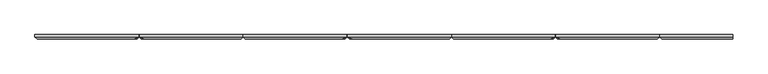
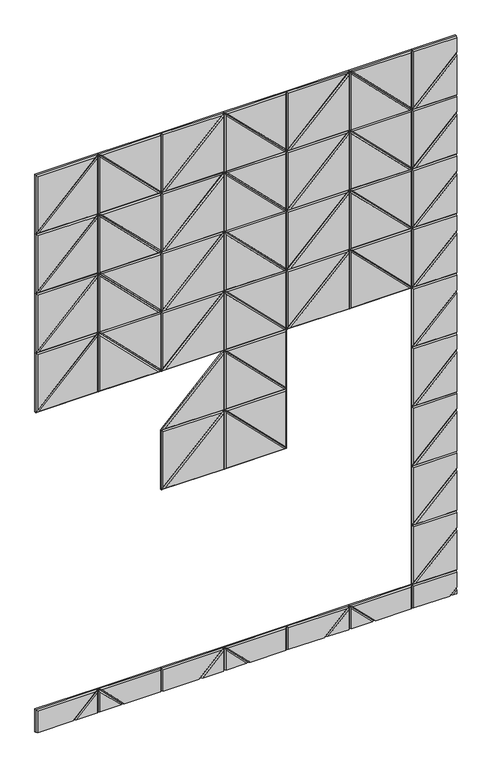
"""IFC4 building model written with IfcOpenShell, lengths in millimetres: proxy geometry, Wall_Akebia 7.3dm."""

from ifc_helpers import new_model, si_unit, origin, place, context, project, spatial, faceted_brep, source, transform, mapped, element, save


def generic_models_00a8797d(model_context):
    return source(origin(), model_context, "Body", "Brep", [
        faceted_brep([(10927.1489855, 12.0, 0.0), (10951.9489855, 12.0, 24.8), (10951.9489855, 12.0, 0.0), (10927.1489855, 6.0, 0.0), (10951.9489855, 6.0, 24.8), (10935.6342669, 0.0, 0.0), (10951.9489855, 0.0, 0.0), (10951.9489855, 0.0, 16.3147186)], [[[0, 1, 2]], [[0, 3, 4, 1]], [[5, 6, 7]], [[3, 5, 7, 4]], [[2, 1, 4, 7, 6]], [[0, 2, 6, 5, 3]]]),
        faceted_brep([(10927.1489855, 12.0, 0.0), (10742.6489855, 12.0, 0.0), (10742.6489855, 12.0, 113.95), (10951.9489855, 12.0, 113.95), (10951.9489855, 12.0, 24.8), (10742.6489855, 6.0, 113.95), (10951.9489855, 6.0, 113.95), (10951.9489855, 6.0, 24.8), (10927.1489855, 6.0, 0.0), (10742.6489855, 6.0, 0.0), (10918.6637042, 0.0, 0.0), (10951.9489855, 0.0, 33.2852814), (10951.9489855, 0.0, 107.95), (10748.6489855, 0.0, 107.95), (10748.6489855, 0.0, 0.0)], [[[0, 1, 2, 3, 4]], [[3, 2, 5, 6]], [[0, 4, 7, 8]], [[9, 5, 2, 1]], [[10, 11, 12, 13, 14]], [[6, 5, 13, 12]], [[8, 7, 11, 10]], [[14, 13, 5, 9]], [[3, 6, 12, 11, 7, 4]], [[0, 8, 10, 14, 9, 1]]]),
        faceted_brep([(9961.2489855, 12.0, 0.0), (9847.2989855, 12.0, 0.0), (9847.2989855, 12.0, 113.95), (9847.2989855, 6.0, 0.0), (9847.2989855, 6.0, 113.95), (9961.2489855, 6.0, 0.0), (9952.7637042, 0.0, 0.0), (9853.2989855, 0.0, 99.4647186), (9853.2989855, 0.0, 0.0)], [[[0, 1, 2]], [[3, 4, 2, 1]], [[0, 2, 4, 5]], [[6, 7, 8]], [[8, 7, 4, 3]], [[5, 4, 7, 6]], [[0, 5, 6, 8, 3, 1]]]),
        faceted_brep([(9961.2489855, 12.0, 0.0), (9847.2989855, 12.0, 113.95), (10145.7489855, 12.0, 113.95), (10145.7489855, 12.0, 0.0), (10145.7489855, 6.0, 113.95), (9847.2989855, 6.0, 113.95), (9961.2489855, 6.0, 0.0), (10145.7489855, 6.0, 0.0), (9969.7342669, 0.0, 0.0), (10139.7489855, 0.0, 0.0), (10139.7489855, 0.0, 107.95), (9861.7842669, 0.0, 107.95)], [[[0, 1, 2, 3]], [[4, 2, 1, 5]], [[0, 6, 5, 1]], [[7, 3, 2, 4]], [[8, 9, 10, 11]], [[4, 5, 11, 10]], [[6, 8, 11, 5]], [[9, 7, 4, 10]], [[0, 3, 7, 9, 8, 6]]]),
        faceted_brep([(9733.3489855, 12.0, 0.0), (9847.2989855, 12.0, 113.95), (9847.2989855, 12.0, 0.0), (9847.2989855, 6.0, 0.0), (9847.2989855, 6.0, 113.95), (9733.3489855, 6.0, 0.0), (9741.8342669, 0.0, 0.0), (9841.2989855, 0.0, 0.0), (9841.2989855, 0.0, 99.4647186)], [[[0, 1, 2]], [[3, 2, 1, 4]], [[0, 5, 4, 1]], [[6, 7, 8]], [[7, 3, 4, 8]], [[5, 6, 8, 4]], [[0, 2, 3, 7, 6, 5]]]),
        faceted_brep([(9733.3489855, 12.0, 0.0), (9548.8489855, 12.0, 0.0), (9548.8489855, 12.0, 113.95), (9847.2989855, 12.0, 113.95), (9548.8489855, 6.0, 113.95), (9847.2989855, 6.0, 113.95), (9733.3489855, 6.0, 0.0), (9548.8489855, 6.0, 0.0), (9724.8637042, 0.0, 0.0), (9832.8137042, 0.0, 107.95), (9554.8489855, 0.0, 107.95), (9554.8489855, 0.0, 0.0)], [[[0, 1, 2, 3]], [[4, 5, 3, 2]], [[0, 3, 5, 6]], [[7, 4, 2, 1]], [[8, 9, 10, 11]], [[4, 10, 9, 5]], [[6, 5, 9, 8]], [[11, 10, 4, 7]], [[0, 6, 8, 11, 7, 1]]]),
        faceted_brep([(9364.3489855, 12.0, 0.0), (9250.3989855, 12.0, 0.0), (9250.3989855, 12.0, 113.95), (9250.3989855, 6.0, 0.0), (9250.3989855, 6.0, 113.95), (9364.3489855, 6.0, 0.0), (9355.8637042, 0.0, 0.0), (9256.3989855, 0.0, 99.4647186), (9256.3989855, 0.0, 0.0)], [[[0, 1, 2]], [[3, 4, 2, 1]], [[0, 2, 4, 5]], [[6, 7, 8]], [[8, 7, 4, 3]], [[5, 4, 7, 6]], [[0, 5, 6, 8, 3, 1]]]),
        faceted_brep([(9364.3489855, 12.0, 0.0), (9250.3989855, 12.0, 113.95), (9548.8489855, 12.0, 113.95), (9548.8489855, 12.0, 0.0), (9548.8489855, 6.0, 113.95), (9250.3989855, 6.0, 113.95), (9364.3489855, 6.0, 0.0), (9548.8489855, 6.0, 0.0), (9372.8342669, 0.0, 0.0), (9542.8489855, 0.0, 0.0), (9542.8489855, 0.0, 107.95), (9264.8842669, 0.0, 107.95)], [[[0, 1, 2, 3]], [[4, 2, 1, 5]], [[0, 6, 5, 1]], [[7, 3, 2, 4]], [[8, 9, 10, 11]], [[4, 5, 11, 10]], [[6, 8, 11, 5]], [[9, 7, 4, 10]], [[0, 3, 7, 9, 8, 6]]]),
        faceted_brep([(9136.4489855, 12.0, 0.0), (9250.3989855, 12.0, 113.95), (9250.3989855, 12.0, 0.0), (9250.3989855, 6.0, 0.0), (9250.3989855, 6.0, 113.95), (9136.4489855, 6.0, 0.0), (9144.9342669, 0.0, 0.0), (9244.3989855, 0.0, 0.0), (9244.3989855, 0.0, 99.4647186)], [[[0, 1, 2]], [[3, 2, 1, 4]], [[0, 5, 4, 1]], [[6, 7, 8]], [[7, 3, 4, 8]], [[5, 6, 8, 4]], [[0, 2, 3, 7, 6, 5]]]),
        faceted_brep([(9136.4489855, 12.0, 0.0), (8951.9489855, 12.0, 0.0), (8951.9489855, 12.0, 113.95), (9250.3989855, 12.0, 113.95), (8951.9489855, 6.0, 113.95), (9250.3989855, 6.0, 113.95), (9136.4489855, 6.0, 0.0), (8951.9489855, 6.0, 0.0), (9127.9637042, 0.0, 0.0), (9235.9137042, 0.0, 107.95), (8957.9489855, 0.0, 107.95), (8957.9489855, 0.0, 0.0)], [[[0, 1, 2, 3]], [[4, 5, 3, 2]], [[0, 3, 5, 6]], [[7, 4, 2, 1]], [[8, 9, 10, 11]], [[4, 10, 9, 5]], [[6, 5, 9, 8]], [[11, 10, 4, 7]], [[0, 6, 8, 11, 7, 1]]]),
        faceted_brep([(10558.1489855, 12.0, 0.0), (10444.1989855, 12.0, 0.0), (10444.1989855, 12.0, 113.95), (10444.1989855, 6.0, 0.0), (10444.1989855, 6.0, 113.95), (10558.1489855, 6.0, 0.0), (10549.6637042, 0.0, 0.0), (10450.1989855, 0.0, 99.4647186), (10450.1989855, 0.0, 0.0)], [[[0, 1, 2]], [[3, 4, 2, 1]], [[0, 2, 4, 5]], [[6, 7, 8]], [[8, 7, 4, 3]], [[5, 4, 7, 6]], [[0, 5, 6, 8, 3, 1]]]),
        faceted_brep([(10558.1489855, 12.0, 0.0), (10444.1989855, 12.0, 113.95), (10742.6489855, 12.0, 113.95), (10742.6489855, 12.0, 0.0), (10742.6489855, 6.0, 113.95), (10444.1989855, 6.0, 113.95), (10558.1489855, 6.0, 0.0), (10742.6489855, 6.0, 0.0), (10566.6342669, 0.0, 0.0), (10736.6489855, 0.0, 0.0), (10736.6489855, 0.0, 107.95), (10458.6842669, 0.0, 107.95)], [[[0, 1, 2, 3]], [[4, 2, 1, 5]], [[0, 6, 5, 1]], [[7, 3, 2, 4]], [[8, 9, 10, 11]], [[4, 5, 11, 10]], [[6, 8, 11, 5]], [[9, 7, 4, 10]], [[0, 3, 7, 9, 8, 6]]]),
        faceted_brep([(10330.2489855, 12.0, 0.0), (10444.1989855, 12.0, 113.95), (10444.1989855, 12.0, 0.0), (10444.1989855, 6.0, 0.0), (10444.1989855, 6.0, 113.95), (10330.2489855, 6.0, 0.0), (10338.7342669, 0.0, 0.0), (10438.1989855, 0.0, 0.0), (10438.1989855, 0.0, 99.4647186)], [[[0, 1, 2]], [[3, 2, 1, 4]], [[0, 5, 4, 1]], [[6, 7, 8]], [[7, 3, 4, 8]], [[5, 6, 8, 4]], [[0, 2, 3, 7, 6, 5]]]),
        faceted_brep([(10330.2489855, 12.0, 0.0), (10145.7489855, 12.0, 0.0), (10145.7489855, 12.0, 113.95), (10444.1989855, 12.0, 113.95), (10145.7489855, 6.0, 113.95), (10444.1989855, 6.0, 113.95), (10330.2489855, 6.0, 0.0), (10145.7489855, 6.0, 0.0), (10321.7637042, 0.0, 0.0), (10429.7137042, 0.0, 107.95), (10151.7489855, 0.0, 107.95), (10151.7489855, 0.0, 0.0)], [[[0, 1, 2, 3]], [[4, 5, 3, 2]], [[0, 3, 5, 6]], [[7, 4, 2, 1]], [[8, 9, 10, 11]], [[4, 10, 9, 5]], [[6, 5, 9, 8]], [[11, 10, 4, 7]], [[0, 6, 8, 11, 7, 1]]]),
        faceted_brep([(10951.9489855, 12.0, 2203.1), (10742.6489855, 12.0, 2203.1), (10951.9489855, 12.0, 2412.4), (10951.9489855, 6.0, 2412.4), (10742.6489855, 6.0, 2203.1), (10951.9489855, 6.0, 2203.1), (10951.9489855, 0.0, 2209.1), (10951.9489855, 0.0, 2403.9147186), (10757.1342669, 0.0, 2209.1)], [[[0, 1, 2]], [[3, 2, 1, 4]], [[0, 5, 4, 1]], [[6, 7, 8]], [[7, 3, 4, 8]], [[5, 6, 8, 4]], [[0, 2, 3, 7, 6, 5]]]),
        faceted_brep([(10951.9489855, 12.0, 2501.55), (10951.9489855, 12.0, 2412.4), (10742.6489855, 12.0, 2203.1), (10742.6489855, 12.0, 2501.55), (10742.6489855, 6.0, 2501.55), (10951.9489855, 6.0, 2501.55), (10951.9489855, 6.0, 2412.4), (10742.6489855, 6.0, 2203.1), (10951.9489855, 0.0, 2495.55), (10748.6489855, 0.0, 2495.55), (10748.6489855, 0.0, 2217.5852814), (10951.9489855, 0.0, 2420.8852814)], [[[0, 1, 2, 3]], [[0, 3, 4, 5]], [[6, 7, 2, 1]], [[7, 4, 3, 2]], [[8, 9, 10, 11]], [[5, 4, 9, 8]], [[11, 10, 7, 6]], [[7, 10, 9, 4]], [[0, 5, 8, 11, 6, 1]]]),
        faceted_brep([(10951.9489855, 12.0, 2501.55), (10742.6489855, 12.0, 2501.55), (10951.9489855, 12.0, 2710.85), (10951.9489855, 6.0, 2710.85), (10742.6489855, 6.0, 2501.55), (10951.9489855, 6.0, 2501.55), (10951.9489855, 0.0, 2507.55), (10951.9489855, 0.0, 2702.3647186), (10757.1342669, 0.0, 2507.55)], [[[0, 1, 2]], [[3, 2, 1, 4]], [[0, 5, 4, 1]], [[6, 7, 8]], [[7, 3, 4, 8]], [[5, 6, 8, 4]], [[0, 2, 3, 7, 6, 5]]]),
        faceted_brep([(10951.9489855, 12.0, 2800.0), (10951.9489855, 12.0, 2710.85), (10742.6489855, 12.0, 2501.55), (10742.6489855, 12.0, 2800.0), (10742.6489855, 6.0, 2800.0), (10951.9489855, 6.0, 2800.0), (10951.9489855, 6.0, 2710.85), (10742.6489855, 6.0, 2501.55), (10951.9489855, 0.0, 2794.0), (10748.6489855, 0.0, 2794.0), (10748.6489855, 0.0, 2516.0352814), (10951.9489855, 0.0, 2719.3352814)], [[[0, 1, 2, 3]], [[0, 3, 4, 5]], [[6, 7, 2, 1]], [[7, 4, 3, 2]], [[8, 9, 10, 11]], [[5, 4, 9, 8]], [[11, 10, 7, 6]], [[7, 10, 9, 4]], [[0, 5, 8, 11, 6, 1]]]),
        faceted_brep([(10951.9489855, 12.0, 1606.2), (10742.6489855, 12.0, 1606.2), (10951.9489855, 12.0, 1815.5), (10951.9489855, 6.0, 1815.5), (10742.6489855, 6.0, 1606.2), (10951.9489855, 6.0, 1606.2), (10951.9489855, 0.0, 1612.2), (10951.9489855, 0.0, 1807.0147186), (10757.1342669, 0.0, 1612.2)], [[[0, 1, 2]], [[3, 2, 1, 4]], [[0, 5, 4, 1]], [[6, 7, 8]], [[7, 3, 4, 8]], [[5, 6, 8, 4]], [[0, 2, 3, 7, 6, 5]]]),
        faceted_brep([(10951.9489855, 12.0, 1904.65), (10951.9489855, 12.0, 1815.5), (10742.6489855, 12.0, 1606.2), (10742.6489855, 12.0, 1904.65), (10742.6489855, 6.0, 1904.65), (10951.9489855, 6.0, 1904.65), (10951.9489855, 6.0, 1815.5), (10742.6489855, 6.0, 1606.2), (10951.9489855, 0.0, 1898.65), (10748.6489855, 0.0, 1898.65), (10748.6489855, 0.0, 1620.6852814), (10951.9489855, 0.0, 1823.9852814)], [[[0, 1, 2, 3]], [[0, 3, 4, 5]], [[6, 7, 2, 1]], [[7, 4, 3, 2]], [[8, 9, 10, 11]], [[5, 4, 9, 8]], [[11, 10, 7, 6]], [[7, 10, 9, 4]], [[0, 5, 8, 11, 6, 1]]]),
        faceted_brep([(10951.9489855, 12.0, 1904.65), (10742.6489855, 12.0, 1904.65), (10951.9489855, 12.0, 2113.95), (10951.9489855, 6.0, 2113.95), (10742.6489855, 6.0, 1904.65), (10951.9489855, 6.0, 1904.65), (10951.9489855, 0.0, 1910.65), (10951.9489855, 0.0, 2105.4647186), (10757.1342669, 0.0, 1910.65)], [[[0, 1, 2]], [[3, 2, 1, 4]], [[0, 5, 4, 1]], [[6, 7, 8]], [[7, 3, 4, 8]], [[5, 6, 8, 4]], [[0, 2, 3, 7, 6, 5]]]),
        faceted_brep([(10951.9489855, 12.0, 2203.1), (10951.9489855, 12.0, 2113.95), (10742.6489855, 12.0, 1904.65), (10742.6489855, 12.0, 2203.1), (10742.6489855, 6.0, 2203.1), (10951.9489855, 6.0, 2203.1), (10951.9489855, 6.0, 2113.95), (10742.6489855, 6.0, 1904.65), (10951.9489855, 0.0, 2197.1), (10748.6489855, 0.0, 2197.1), (10748.6489855, 0.0, 1919.1352814), (10951.9489855, 0.0, 2122.4352814)], [[[0, 1, 2, 3]], [[0, 3, 4, 5]], [[6, 7, 2, 1]], [[7, 4, 3, 2]], [[8, 9, 10, 11]], [[5, 4, 9, 8]], [[11, 10, 7, 6]], [[7, 10, 9, 4]], [[0, 5, 8, 11, 6, 1]]]),
        faceted_brep([(10951.9489855, 12.0, 1009.3), (10742.6489855, 12.0, 1009.3), (10951.9489855, 12.0, 1218.6), (10951.9489855, 6.0, 1218.6), (10742.6489855, 6.0, 1009.3), (10951.9489855, 6.0, 1009.3), (10951.9489855, 0.0, 1015.3), (10951.9489855, 0.0, 1210.1147186), (10757.1342669, 0.0, 1015.3)], [[[0, 1, 2]], [[3, 2, 1, 4]], [[0, 5, 4, 1]], [[6, 7, 8]], [[7, 3, 4, 8]], [[5, 6, 8, 4]], [[0, 2, 3, 7, 6, 5]]]),
        faceted_brep([(10951.9489855, 12.0, 1307.75), (10951.9489855, 12.0, 1218.6), (10742.6489855, 12.0, 1009.3), (10742.6489855, 12.0, 1307.75), (10742.6489855, 6.0, 1307.75), (10951.9489855, 6.0, 1307.75), (10951.9489855, 6.0, 1218.6), (10742.6489855, 6.0, 1009.3), (10951.9489855, 0.0, 1301.75), (10748.6489855, 0.0, 1301.75), (10748.6489855, 0.0, 1023.7852814), (10951.9489855, 0.0, 1227.0852814)], [[[0, 1, 2, 3]], [[0, 3, 4, 5]], [[6, 7, 2, 1]], [[7, 4, 3, 2]], [[8, 9, 10, 11]], [[5, 4, 9, 8]], [[11, 10, 7, 6]], [[7, 10, 9, 4]], [[0, 5, 8, 11, 6, 1]]]),
        faceted_brep([(10951.9489855, 12.0, 1307.75), (10742.6489855, 12.0, 1307.75), (10951.9489855, 12.0, 1517.05), (10951.9489855, 6.0, 1517.05), (10742.6489855, 6.0, 1307.75), (10951.9489855, 6.0, 1307.75), (10951.9489855, 0.0, 1313.75), (10951.9489855, 0.0, 1508.5647186), (10757.1342669, 0.0, 1313.75)], [[[0, 1, 2]], [[3, 2, 1, 4]], [[0, 5, 4, 1]], [[6, 7, 8]], [[7, 3, 4, 8]], [[5, 6, 8, 4]], [[0, 2, 3, 7, 6, 5]]]),
        faceted_brep([(10951.9489855, 12.0, 1606.2), (10951.9489855, 12.0, 1517.05), (10742.6489855, 12.0, 1307.75), (10742.6489855, 12.0, 1606.2), (10742.6489855, 6.0, 1606.2), (10951.9489855, 6.0, 1606.2), (10951.9489855, 6.0, 1517.05), (10742.6489855, 6.0, 1307.75), (10951.9489855, 0.0, 1600.2), (10748.6489855, 0.0, 1600.2), (10748.6489855, 0.0, 1322.2352814), (10951.9489855, 0.0, 1525.5352814)], [[[0, 1, 2, 3]], [[0, 3, 4, 5]], [[6, 7, 2, 1]], [[7, 4, 3, 2]], [[8, 9, 10, 11]], [[5, 4, 9, 8]], [[11, 10, 7, 6]], [[7, 10, 9, 4]], [[0, 5, 8, 11, 6, 1]]]),
        faceted_brep([(10951.9489855, 12.0, 412.4), (10742.6489855, 12.0, 412.4), (10951.9489855, 12.0, 621.7), (10951.9489855, 6.0, 621.7), (10742.6489855, 6.0, 412.4), (10951.9489855, 6.0, 412.4), (10951.9489855, 0.0, 418.4), (10951.9489855, 0.0, 613.2147186), (10757.1342669, 0.0, 418.4)], [[[0, 1, 2]], [[3, 2, 1, 4]], [[0, 5, 4, 1]], [[6, 7, 8]], [[7, 3, 4, 8]], [[5, 6, 8, 4]], [[0, 2, 3, 7, 6, 5]]]),
        faceted_brep([(10951.9489855, 12.0, 710.85), (10951.9489855, 12.0, 621.7), (10742.6489855, 12.0, 412.4), (10742.6489855, 12.0, 710.85), (10742.6489855, 6.0, 710.85), (10951.9489855, 6.0, 710.85), (10951.9489855, 6.0, 621.7), (10742.6489855, 6.0, 412.4), (10951.9489855, 0.0, 704.85), (10748.6489855, 0.0, 704.85), (10748.6489855, 0.0, 426.8852814), (10951.9489855, 0.0, 630.1852814)], [[[0, 1, 2, 3]], [[0, 3, 4, 5]], [[6, 7, 2, 1]], [[7, 4, 3, 2]], [[8, 9, 10, 11]], [[5, 4, 9, 8]], [[11, 10, 7, 6]], [[7, 10, 9, 4]], [[0, 5, 8, 11, 6, 1]]]),
        faceted_brep([(10951.9489855, 12.0, 710.85), (10742.6489855, 12.0, 710.85), (10951.9489855, 12.0, 920.15), (10951.9489855, 6.0, 920.15), (10742.6489855, 6.0, 710.85), (10951.9489855, 6.0, 710.85), (10951.9489855, 0.0, 716.85), (10951.9489855, 0.0, 911.6647186), (10757.1342669, 0.0, 716.85)], [[[0, 1, 2]], [[3, 2, 1, 4]], [[0, 5, 4, 1]], [[6, 7, 8]], [[7, 3, 4, 8]], [[5, 6, 8, 4]], [[0, 2, 3, 7, 6, 5]]]),
        faceted_brep([(10951.9489855, 12.0, 1009.3), (10951.9489855, 12.0, 920.15), (10742.6489855, 12.0, 710.85), (10742.6489855, 12.0, 1009.3), (10742.6489855, 6.0, 1009.3), (10951.9489855, 6.0, 1009.3), (10951.9489855, 6.0, 920.15), (10742.6489855, 6.0, 710.85), (10951.9489855, 0.0, 1003.3), (10748.6489855, 0.0, 1003.3), (10748.6489855, 0.0, 725.3352814), (10951.9489855, 0.0, 928.6352814)], [[[0, 1, 2, 3]], [[0, 3, 4, 5]], [[6, 7, 2, 1]], [[7, 4, 3, 2]], [[8, 9, 10, 11]], [[5, 4, 9, 8]], [[11, 10, 7, 6]], [[7, 10, 9, 4]], [[0, 5, 8, 11, 6, 1]]]),
        faceted_brep([(10951.9489855, 12.0, 113.95), (10742.6489855, 12.0, 113.95), (10951.9489855, 12.0, 323.25), (10951.9489855, 6.0, 323.25), (10742.6489855, 6.0, 113.95), (10951.9489855, 6.0, 113.95), (10951.9489855, 0.0, 119.95), (10951.9489855, 0.0, 314.7647186), (10757.1342669, 0.0, 119.95)], [[[0, 1, 2]], [[3, 2, 1, 4]], [[0, 5, 4, 1]], [[6, 7, 8]], [[7, 3, 4, 8]], [[5, 6, 8, 4]], [[0, 2, 3, 7, 6, 5]]]),
        faceted_brep([(10951.9489855, 12.0, 412.4), (10951.9489855, 12.0, 323.25), (10742.6489855, 12.0, 113.95), (10742.6489855, 12.0, 412.4), (10742.6489855, 6.0, 412.4), (10951.9489855, 6.0, 412.4), (10951.9489855, 6.0, 323.25), (10742.6489855, 6.0, 113.95), (10951.9489855, 0.0, 406.4), (10748.6489855, 0.0, 406.4), (10748.6489855, 0.0, 128.4352814), (10951.9489855, 0.0, 331.7352814)], [[[0, 1, 2, 3]], [[0, 3, 4, 5]], [[6, 7, 2, 1]], [[7, 4, 3, 2]], [[8, 9, 10, 11]], [[5, 4, 9, 8]], [[11, 10, 7, 6]], [[7, 10, 9, 4]], [[0, 5, 8, 11, 6, 1]]]),
        faceted_brep([(9847.2989855, 12.0, 2203.1), (9847.2989855, 12.0, 2501.55), (10145.7489855, 12.0, 2203.1), (9847.2989855, 6.0, 2203.1), (9847.2989855, 6.0, 2501.55), (10145.7489855, 6.0, 2203.1), (10131.2637042, 0.0, 2209.1), (9853.2989855, 0.0, 2487.0647186), (9853.2989855, 0.0, 2209.1)], [[[0, 1, 2]], [[3, 4, 1, 0]], [[4, 5, 2, 1]], [[5, 3, 0, 2]], [[6, 7, 8]], [[3, 8, 7, 4]], [[4, 7, 6, 5]], [[5, 6, 8, 3]]]),
        faceted_brep([(10145.7489855, 12.0, 2501.55), (10145.7489855, 12.0, 2203.1), (9847.2989855, 12.0, 2501.55), (10145.7489855, 6.0, 2501.55), (9847.2989855, 6.0, 2501.55), (10145.7489855, 6.0, 2203.1), (10139.7489855, 0.0, 2217.5852814), (10139.7489855, 0.0, 2495.55), (9861.7842669, 0.0, 2495.55)], [[[0, 1, 2]], [[3, 0, 2, 4]], [[4, 2, 1, 5]], [[5, 1, 0, 3]], [[6, 7, 8]], [[3, 4, 8, 7]], [[4, 5, 6, 8]], [[5, 3, 7, 6]]]),
        faceted_brep([(9847.2989855, 12.0, 2203.1), (9548.8489855, 12.0, 2203.1), (9847.2989855, 12.0, 2501.55), (9847.2989855, 6.0, 2203.1), (9847.2989855, 6.0, 2501.55), (9548.8489855, 6.0, 2203.1), (9563.3342669, 0.0, 2209.1), (9841.2989855, 0.0, 2209.1), (9841.2989855, 0.0, 2487.0647186)], [[[0, 1, 2]], [[3, 0, 2, 4]], [[4, 2, 1, 5]], [[5, 1, 0, 3]], [[6, 7, 8]], [[3, 4, 8, 7]], [[4, 5, 6, 8]], [[5, 3, 7, 6]]]),
        faceted_brep([(9548.8489855, 12.0, 2501.55), (9847.2989855, 12.0, 2501.55), (9548.8489855, 12.0, 2203.1), (9548.8489855, 6.0, 2501.55), (9847.2989855, 6.0, 2501.55), (9548.8489855, 6.0, 2203.1), (9554.8489855, 0.0, 2217.5852814), (9832.8137042, 0.0, 2495.55), (9554.8489855, 0.0, 2495.55)], [[[0, 1, 2]], [[3, 4, 1, 0]], [[4, 5, 2, 1]], [[5, 3, 0, 2]], [[6, 7, 8]], [[3, 8, 7, 4]], [[4, 7, 6, 5]], [[5, 6, 8, 3]]]),
        faceted_brep([(9847.2989855, 12.0, 2501.55), (9847.2989855, 12.0, 2800.0), (10145.7489855, 12.0, 2501.55), (9847.2989855, 6.0, 2501.55), (9847.2989855, 6.0, 2800.0), (10145.7489855, 6.0, 2501.55), (10131.2637042, 0.0, 2507.55), (9853.2989855, 0.0, 2785.5147186), (9853.2989855, 0.0, 2507.55)], [[[0, 1, 2]], [[3, 4, 1, 0]], [[4, 5, 2, 1]], [[5, 3, 0, 2]], [[6, 7, 8]], [[3, 8, 7, 4]], [[4, 7, 6, 5]], [[5, 6, 8, 3]]]),
        faceted_brep([(10145.7489855, 12.0, 2800.0), (10145.7489855, 12.0, 2501.55), (9847.2989855, 12.0, 2800.0), (10145.7489855, 6.0, 2800.0), (9847.2989855, 6.0, 2800.0), (10145.7489855, 6.0, 2501.55), (10139.7489855, 0.0, 2516.0352814), (10139.7489855, 0.0, 2794.0), (9861.7842669, 0.0, 2794.0)], [[[0, 1, 2]], [[3, 0, 2, 4]], [[4, 2, 1, 5]], [[5, 1, 0, 3]], [[6, 7, 8]], [[3, 4, 8, 7]], [[4, 5, 6, 8]], [[5, 3, 7, 6]]]),
        faceted_brep([(9847.2989855, 12.0, 2501.55), (9548.8489855, 12.0, 2501.55), (9847.2989855, 12.0, 2800.0), (9847.2989855, 6.0, 2501.55), (9847.2989855, 6.0, 2800.0), (9548.8489855, 6.0, 2501.55), (9563.3342669, 0.0, 2507.55), (9841.2989855, 0.0, 2507.55), (9841.2989855, 0.0, 2785.5147186)], [[[0, 1, 2]], [[3, 0, 2, 4]], [[4, 2, 1, 5]], [[5, 1, 0, 3]], [[6, 7, 8]], [[3, 4, 8, 7]], [[4, 5, 6, 8]], [[5, 3, 7, 6]]]),
        faceted_brep([(9548.8489855, 12.0, 2800.0), (9847.2989855, 12.0, 2800.0), (9548.8489855, 12.0, 2501.55), (9548.8489855, 6.0, 2800.0), (9847.2989855, 6.0, 2800.0), (9548.8489855, 6.0, 2501.55), (9554.8489855, 0.0, 2516.0352814), (9832.8137042, 0.0, 2794.0), (9554.8489855, 0.0, 2794.0)], [[[0, 1, 2]], [[3, 4, 1, 0]], [[4, 5, 2, 1]], [[5, 3, 0, 2]], [[6, 7, 8]], [[3, 8, 7, 4]], [[4, 7, 6, 5]], [[5, 6, 8, 3]]]),
        faceted_brep([(9250.3989855, 12.0, 2203.1), (9250.3989855, 12.0, 2501.55), (9548.8489855, 12.0, 2203.1), (9250.3989855, 6.0, 2203.1), (9250.3989855, 6.0, 2501.55), (9548.8489855, 6.0, 2203.1), (9534.3637042, 0.0, 2209.1), (9256.3989855, 0.0, 2487.0647186), (9256.3989855, 0.0, 2209.1)], [[[0, 1, 2]], [[3, 4, 1, 0]], [[4, 5, 2, 1]], [[5, 3, 0, 2]], [[6, 7, 8]], [[3, 8, 7, 4]], [[4, 7, 6, 5]], [[5, 6, 8, 3]]]),
        faceted_brep([(9548.8489855, 12.0, 2501.55), (9548.8489855, 12.0, 2203.1), (9250.3989855, 12.0, 2501.55), (9548.8489855, 6.0, 2501.55), (9250.3989855, 6.0, 2501.55), (9548.8489855, 6.0, 2203.1), (9542.8489855, 0.0, 2217.5852814), (9542.8489855, 0.0, 2495.55), (9264.8842669, 0.0, 2495.55)], [[[0, 1, 2]], [[3, 0, 2, 4]], [[4, 2, 1, 5]], [[5, 1, 0, 3]], [[6, 7, 8]], [[3, 4, 8, 7]], [[4, 5, 6, 8]], [[5, 3, 7, 6]]]),
        faceted_brep([(9250.3989855, 12.0, 2203.1), (8951.9489855, 12.0, 2203.1), (9250.3989855, 12.0, 2501.55), (9250.3989855, 6.0, 2203.1), (9250.3989855, 6.0, 2501.55), (8951.9489855, 6.0, 2203.1), (8966.4342669, 0.0, 2209.1), (9244.3989855, 0.0, 2209.1), (9244.3989855, 0.0, 2487.0647186)], [[[0, 1, 2]], [[3, 0, 2, 4]], [[4, 2, 1, 5]], [[5, 1, 0, 3]], [[6, 7, 8]], [[3, 4, 8, 7]], [[4, 5, 6, 8]], [[5, 3, 7, 6]]]),
        faceted_brep([(8951.9489855, 12.0, 2501.55), (9250.3989855, 12.0, 2501.55), (8951.9489855, 12.0, 2203.1), (8951.9489855, 6.0, 2501.55), (9250.3989855, 6.0, 2501.55), (8951.9489855, 6.0, 2203.1), (8957.9489855, 0.0, 2217.5852814), (9235.9137042, 0.0, 2495.55), (8957.9489855, 0.0, 2495.55)], [[[0, 1, 2]], [[3, 4, 1, 0]], [[4, 5, 2, 1]], [[5, 3, 0, 2]], [[6, 7, 8]], [[3, 8, 7, 4]], [[4, 7, 6, 5]], [[5, 6, 8, 3]]]),
        faceted_brep([(9250.3989855, 12.0, 2501.55), (9250.3989855, 12.0, 2800.0), (9548.8489855, 12.0, 2501.55), (9250.3989855, 6.0, 2501.55), (9250.3989855, 6.0, 2800.0), (9548.8489855, 6.0, 2501.55), (9534.3637042, 0.0, 2507.55), (9256.3989855, 0.0, 2785.5147186), (9256.3989855, 0.0, 2507.55)], [[[0, 1, 2]], [[3, 4, 1, 0]], [[4, 5, 2, 1]], [[5, 3, 0, 2]], [[6, 7, 8]], [[3, 8, 7, 4]], [[4, 7, 6, 5]], [[5, 6, 8, 3]]]),
        faceted_brep([(9548.8489855, 12.0, 2800.0), (9548.8489855, 12.0, 2501.55), (9250.3989855, 12.0, 2800.0), (9548.8489855, 6.0, 2800.0), (9250.3989855, 6.0, 2800.0), (9548.8489855, 6.0, 2501.55), (9542.8489855, 0.0, 2516.0352814), (9542.8489855, 0.0, 2794.0), (9264.8842669, 0.0, 2794.0)], [[[0, 1, 2]], [[3, 0, 2, 4]], [[4, 2, 1, 5]], [[5, 1, 0, 3]], [[6, 7, 8]], [[3, 4, 8, 7]], [[4, 5, 6, 8]], [[5, 3, 7, 6]]]),
        faceted_brep([(9250.3989855, 12.0, 2501.55), (8951.9489855, 12.0, 2501.55), (9250.3989855, 12.0, 2800.0), (9250.3989855, 6.0, 2501.55), (9250.3989855, 6.0, 2800.0), (8951.9489855, 6.0, 2501.55), (8966.4342669, 0.0, 2507.55), (9244.3989855, 0.0, 2507.55), (9244.3989855, 0.0, 2785.5147186)], [[[0, 1, 2]], [[3, 0, 2, 4]], [[4, 2, 1, 5]], [[5, 1, 0, 3]], [[6, 7, 8]], [[3, 4, 8, 7]], [[4, 5, 6, 8]], [[5, 3, 7, 6]]]),
        faceted_brep([(8951.9489855, 12.0, 2800.0), (9250.3989855, 12.0, 2800.0), (8951.9489855, 12.0, 2501.55), (8951.9489855, 6.0, 2800.0), (9250.3989855, 6.0, 2800.0), (8951.9489855, 6.0, 2501.55), (8957.9489855, 0.0, 2516.0352814), (9235.9137042, 0.0, 2794.0), (8957.9489855, 0.0, 2794.0)], [[[0, 1, 2]], [[3, 4, 1, 0]], [[4, 5, 2, 1]], [[5, 3, 0, 2]], [[6, 7, 8]], [[3, 8, 7, 4]], [[4, 7, 6, 5]], [[5, 6, 8, 3]]]),
        faceted_brep([(10444.1989855, 12.0, 2203.1), (10444.1989855, 12.0, 2501.55), (10742.6489855, 12.0, 2203.1), (10444.1989855, 6.0, 2203.1), (10444.1989855, 6.0, 2501.55), (10742.6489855, 6.0, 2203.1), (10728.1637042, 0.0, 2209.1), (10450.1989855, 0.0, 2487.0647186), (10450.1989855, 0.0, 2209.1)], [[[0, 1, 2]], [[3, 4, 1, 0]], [[4, 5, 2, 1]], [[5, 3, 0, 2]], [[6, 7, 8]], [[3, 8, 7, 4]], [[4, 7, 6, 5]], [[5, 6, 8, 3]]]),
        faceted_brep([(10742.6489855, 12.0, 2501.55), (10742.6489855, 12.0, 2203.1), (10444.1989855, 12.0, 2501.55), (10742.6489855, 6.0, 2501.55), (10444.1989855, 6.0, 2501.55), (10742.6489855, 6.0, 2203.1), (10736.6489855, 0.0, 2217.5852814), (10736.6489855, 0.0, 2495.55), (10458.6842669, 0.0, 2495.55)], [[[0, 1, 2]], [[3, 0, 2, 4]], [[4, 2, 1, 5]], [[5, 1, 0, 3]], [[6, 7, 8]], [[3, 4, 8, 7]], [[4, 5, 6, 8]], [[5, 3, 7, 6]]]),
        faceted_brep([(10444.1989855, 12.0, 2203.1), (10145.7489855, 12.0, 2203.1), (10444.1989855, 12.0, 2501.55), (10444.1989855, 6.0, 2203.1), (10444.1989855, 6.0, 2501.55), (10145.7489855, 6.0, 2203.1), (10160.2342669, 0.0, 2209.1), (10438.1989855, 0.0, 2209.1), (10438.1989855, 0.0, 2487.0647186)], [[[0, 1, 2]], [[3, 0, 2, 4]], [[4, 2, 1, 5]], [[5, 1, 0, 3]], [[6, 7, 8]], [[3, 4, 8, 7]], [[4, 5, 6, 8]], [[5, 3, 7, 6]]]),
        faceted_brep([(10145.7489855, 12.0, 2501.55), (10444.1989855, 12.0, 2501.55), (10145.7489855, 12.0, 2203.1), (10145.7489855, 6.0, 2501.55), (10444.1989855, 6.0, 2501.55), (10145.7489855, 6.0, 2203.1), (10151.7489855, 0.0, 2217.5852814), (10429.7137042, 0.0, 2495.55), (10151.7489855, 0.0, 2495.55)], [[[0, 1, 2]], [[3, 4, 1, 0]], [[4, 5, 2, 1]], [[5, 3, 0, 2]], [[6, 7, 8]], [[3, 8, 7, 4]], [[4, 7, 6, 5]], [[5, 6, 8, 3]]]),
        faceted_brep([(10444.1989855, 12.0, 2501.55), (10444.1989855, 12.0, 2800.0), (10742.6489855, 12.0, 2501.55), (10444.1989855, 6.0, 2501.55), (10444.1989855, 6.0, 2800.0), (10742.6489855, 6.0, 2501.55), (10728.1637042, 0.0, 2507.55), (10450.1989855, 0.0, 2785.5147186), (10450.1989855, 0.0, 2507.55)], [[[0, 1, 2]], [[3, 4, 1, 0]], [[4, 5, 2, 1]], [[5, 3, 0, 2]], [[6, 7, 8]], [[3, 8, 7, 4]], [[4, 7, 6, 5]], [[5, 6, 8, 3]]]),
        faceted_brep([(10742.6489855, 12.0, 2800.0), (10742.6489855, 12.0, 2501.55), (10444.1989855, 12.0, 2800.0), (10742.6489855, 6.0, 2800.0), (10444.1989855, 6.0, 2800.0), (10742.6489855, 6.0, 2501.55), (10736.6489855, 0.0, 2516.0352814), (10736.6489855, 0.0, 2794.0), (10458.6842669, 0.0, 2794.0)], [[[0, 1, 2]], [[3, 0, 2, 4]], [[4, 2, 1, 5]], [[5, 1, 0, 3]], [[6, 7, 8]], [[3, 4, 8, 7]], [[4, 5, 6, 8]], [[5, 3, 7, 6]]]),
        faceted_brep([(10444.1989855, 12.0, 2501.55), (10145.7489855, 12.0, 2501.55), (10444.1989855, 12.0, 2800.0), (10444.1989855, 6.0, 2501.55), (10444.1989855, 6.0, 2800.0), (10145.7489855, 6.0, 2501.55), (10160.2342669, 0.0, 2507.55), (10438.1989855, 0.0, 2507.55), (10438.1989855, 0.0, 2785.5147186)], [[[0, 1, 2]], [[3, 0, 2, 4]], [[4, 2, 1, 5]], [[5, 1, 0, 3]], [[6, 7, 8]], [[3, 4, 8, 7]], [[4, 5, 6, 8]], [[5, 3, 7, 6]]]),
        faceted_brep([(10145.7489855, 12.0, 2800.0), (10444.1989855, 12.0, 2800.0), (10145.7489855, 12.0, 2501.55), (10145.7489855, 6.0, 2800.0), (10444.1989855, 6.0, 2800.0), (10145.7489855, 6.0, 2501.55), (10151.7489855, 0.0, 2516.0352814), (10429.7137042, 0.0, 2794.0), (10151.7489855, 0.0, 2794.0)], [[[0, 1, 2]], [[3, 4, 1, 0]], [[4, 5, 2, 1]], [[5, 3, 0, 2]], [[6, 7, 8]], [[3, 8, 7, 4]], [[4, 7, 6, 5]], [[5, 6, 8, 3]]]),
        faceted_brep([(9847.2989855, 12.0, 1606.2), (9847.2989855, 12.0, 1904.65), (10145.7489855, 12.0, 1606.2), (9847.2989855, 6.0, 1606.2), (9847.2989855, 6.0, 1904.65), (10145.7489855, 6.0, 1606.2), (10131.2637042, 0.0, 1612.2), (9853.2989855, 0.0, 1890.1647186), (9853.2989855, 0.0, 1612.2)], [[[0, 1, 2]], [[3, 4, 1, 0]], [[4, 5, 2, 1]], [[5, 3, 0, 2]], [[6, 7, 8]], [[3, 8, 7, 4]], [[4, 7, 6, 5]], [[5, 6, 8, 3]]]),
        faceted_brep([(10145.7489855, 12.0, 1904.65), (10145.7489855, 12.0, 1606.2), (9847.2989855, 12.0, 1904.65), (10145.7489855, 6.0, 1904.65), (9847.2989855, 6.0, 1904.65), (10145.7489855, 6.0, 1606.2), (10139.7489855, 0.0, 1620.6852814), (10139.7489855, 0.0, 1898.65), (9861.7842669, 0.0, 1898.65)], [[[0, 1, 2]], [[3, 0, 2, 4]], [[4, 2, 1, 5]], [[5, 1, 0, 3]], [[6, 7, 8]], [[3, 4, 8, 7]], [[4, 5, 6, 8]], [[5, 3, 7, 6]]]),
        faceted_brep([(9847.2989855, 12.0, 1606.2), (9548.8489855, 12.0, 1606.2), (9847.2989855, 12.0, 1904.65), (9847.2989855, 6.0, 1606.2), (9847.2989855, 6.0, 1904.65), (9548.8489855, 6.0, 1606.2), (9563.3342669, 0.0, 1612.2), (9841.2989855, 0.0, 1612.2), (9841.2989855, 0.0, 1890.1647186)], [[[0, 1, 2]], [[3, 0, 2, 4]], [[4, 2, 1, 5]], [[5, 1, 0, 3]], [[6, 7, 8]], [[3, 4, 8, 7]], [[4, 5, 6, 8]], [[5, 3, 7, 6]]]),
        faceted_brep([(9548.8489855, 12.0, 1904.65), (9847.2989855, 12.0, 1904.65), (9548.8489855, 12.0, 1606.2), (9548.8489855, 6.0, 1904.65), (9847.2989855, 6.0, 1904.65), (9548.8489855, 6.0, 1606.2), (9554.8489855, 0.0, 1620.6852814), (9832.8137042, 0.0, 1898.65), (9554.8489855, 0.0, 1898.65)], [[[0, 1, 2]], [[3, 4, 1, 0]], [[4, 5, 2, 1]], [[5, 3, 0, 2]], [[6, 7, 8]], [[3, 8, 7, 4]], [[4, 7, 6, 5]], [[5, 6, 8, 3]]]),
        faceted_brep([(9847.2989855, 12.0, 1904.65), (9847.2989855, 12.0, 2203.1), (10145.7489855, 12.0, 1904.65), (9847.2989855, 6.0, 1904.65), (9847.2989855, 6.0, 2203.1), (10145.7489855, 6.0, 1904.65), (10131.2637042, 0.0, 1910.65), (9853.2989855, 0.0, 2188.6147186), (9853.2989855, 0.0, 1910.65)], [[[0, 1, 2]], [[3, 4, 1, 0]], [[4, 5, 2, 1]], [[5, 3, 0, 2]], [[6, 7, 8]], [[3, 8, 7, 4]], [[4, 7, 6, 5]], [[5, 6, 8, 3]]]),
        faceted_brep([(10145.7489855, 12.0, 2203.1), (10145.7489855, 12.0, 1904.65), (9847.2989855, 12.0, 2203.1), (10145.7489855, 6.0, 2203.1), (9847.2989855, 6.0, 2203.1), (10145.7489855, 6.0, 1904.65), (10139.7489855, 0.0, 1919.1352814), (10139.7489855, 0.0, 2197.1), (9861.7842669, 0.0, 2197.1)], [[[0, 1, 2]], [[3, 0, 2, 4]], [[4, 2, 1, 5]], [[5, 1, 0, 3]], [[6, 7, 8]], [[3, 4, 8, 7]], [[4, 5, 6, 8]], [[5, 3, 7, 6]]]),
        faceted_brep([(9847.2989855, 12.0, 1904.65), (9548.8489855, 12.0, 1904.65), (9847.2989855, 12.0, 2203.1), (9847.2989855, 6.0, 1904.65), (9847.2989855, 6.0, 2203.1), (9548.8489855, 6.0, 1904.65), (9563.3342669, 0.0, 1910.65), (9841.2989855, 0.0, 1910.65), (9841.2989855, 0.0, 2188.6147186)], [[[0, 1, 2]], [[3, 0, 2, 4]], [[4, 2, 1, 5]], [[5, 1, 0, 3]], [[6, 7, 8]], [[3, 4, 8, 7]], [[4, 5, 6, 8]], [[5, 3, 7, 6]]]),
        faceted_brep([(9548.8489855, 12.0, 2203.1), (9847.2989855, 12.0, 2203.1), (9548.8489855, 12.0, 1904.65), (9548.8489855, 6.0, 2203.1), (9847.2989855, 6.0, 2203.1), (9548.8489855, 6.0, 1904.65), (9554.8489855, 0.0, 1919.1352814), (9832.8137042, 0.0, 2197.1), (9554.8489855, 0.0, 2197.1)], [[[0, 1, 2]], [[3, 4, 1, 0]], [[4, 5, 2, 1]], [[5, 3, 0, 2]], [[6, 7, 8]], [[3, 8, 7, 4]], [[4, 7, 6, 5]], [[5, 6, 8, 3]]]),
        faceted_brep([(9250.3989855, 12.0, 1606.2), (9250.3989855, 12.0, 1904.65), (9548.8489855, 12.0, 1606.2), (9250.3989855, 6.0, 1606.2), (9250.3989855, 6.0, 1904.65), (9548.8489855, 6.0, 1606.2), (9534.3637042, 0.0, 1612.2), (9256.3989855, 0.0, 1890.1647186), (9256.3989855, 0.0, 1612.2)], [[[0, 1, 2]], [[3, 4, 1, 0]], [[4, 5, 2, 1]], [[5, 3, 0, 2]], [[6, 7, 8]], [[3, 8, 7, 4]], [[4, 7, 6, 5]], [[5, 6, 8, 3]]]),
        faceted_brep([(9548.8489855, 12.0, 1904.65), (9548.8489855, 12.0, 1606.2), (9250.3989855, 12.0, 1904.65), (9548.8489855, 6.0, 1904.65), (9250.3989855, 6.0, 1904.65), (9548.8489855, 6.0, 1606.2), (9542.8489855, 0.0, 1620.6852814), (9542.8489855, 0.0, 1898.65), (9264.8842669, 0.0, 1898.65)], [[[0, 1, 2]], [[3, 0, 2, 4]], [[4, 2, 1, 5]], [[5, 1, 0, 3]], [[6, 7, 8]], [[3, 4, 8, 7]], [[4, 5, 6, 8]], [[5, 3, 7, 6]]]),
        faceted_brep([(9250.3989855, 12.0, 1606.2), (8951.9489855, 12.0, 1606.2), (9250.3989855, 12.0, 1904.65), (9250.3989855, 6.0, 1606.2), (9250.3989855, 6.0, 1904.65), (8951.9489855, 6.0, 1606.2), (8966.4342669, 0.0, 1612.2), (9244.3989855, 0.0, 1612.2), (9244.3989855, 0.0, 1890.1647186)], [[[0, 1, 2]], [[3, 0, 2, 4]], [[4, 2, 1, 5]], [[5, 1, 0, 3]], [[6, 7, 8]], [[3, 4, 8, 7]], [[4, 5, 6, 8]], [[5, 3, 7, 6]]]),
        faceted_brep([(8951.9489855, 12.0, 1904.65), (9250.3989855, 12.0, 1904.65), (8951.9489855, 12.0, 1606.2), (8951.9489855, 6.0, 1904.65), (9250.3989855, 6.0, 1904.65), (8951.9489855, 6.0, 1606.2), (8957.9489855, 0.0, 1620.6852814), (9235.9137042, 0.0, 1898.65), (8957.9489855, 0.0, 1898.65)], [[[0, 1, 2]], [[3, 4, 1, 0]], [[4, 5, 2, 1]], [[5, 3, 0, 2]], [[6, 7, 8]], [[3, 8, 7, 4]], [[4, 7, 6, 5]], [[5, 6, 8, 3]]]),
        faceted_brep([(9250.3989855, 12.0, 1904.65), (9250.3989855, 12.0, 2203.1), (9548.8489855, 12.0, 1904.65), (9250.3989855, 6.0, 1904.65), (9250.3989855, 6.0, 2203.1), (9548.8489855, 6.0, 1904.65), (9534.3637042, 0.0, 1910.65), (9256.3989855, 0.0, 2188.6147186), (9256.3989855, 0.0, 1910.65)], [[[0, 1, 2]], [[3, 4, 1, 0]], [[4, 5, 2, 1]], [[5, 3, 0, 2]], [[6, 7, 8]], [[3, 8, 7, 4]], [[4, 7, 6, 5]], [[5, 6, 8, 3]]]),
        faceted_brep([(9548.8489855, 12.0, 2203.1), (9548.8489855, 12.0, 1904.65), (9250.3989855, 12.0, 2203.1), (9548.8489855, 6.0, 2203.1), (9250.3989855, 6.0, 2203.1), (9548.8489855, 6.0, 1904.65), (9542.8489855, 0.0, 1919.1352814), (9542.8489855, 0.0, 2197.1), (9264.8842669, 0.0, 2197.1)], [[[0, 1, 2]], [[3, 0, 2, 4]], [[4, 2, 1, 5]], [[5, 1, 0, 3]], [[6, 7, 8]], [[3, 4, 8, 7]], [[4, 5, 6, 8]], [[5, 3, 7, 6]]]),
        faceted_brep([(9250.3989855, 12.0, 1904.65), (8951.9489855, 12.0, 1904.65), (9250.3989855, 12.0, 2203.1), (9250.3989855, 6.0, 1904.65), (9250.3989855, 6.0, 2203.1), (8951.9489855, 6.0, 1904.65), (8966.4342669, 0.0, 1910.65), (9244.3989855, 0.0, 1910.65), (9244.3989855, 0.0, 2188.6147186)], [[[0, 1, 2]], [[3, 0, 2, 4]], [[4, 2, 1, 5]], [[5, 1, 0, 3]], [[6, 7, 8]], [[3, 4, 8, 7]], [[4, 5, 6, 8]], [[5, 3, 7, 6]]]),
        faceted_brep([(8951.9489855, 12.0, 2203.1), (9250.3989855, 12.0, 2203.1), (8951.9489855, 12.0, 1904.65), (8951.9489855, 6.0, 2203.1), (9250.3989855, 6.0, 2203.1), (8951.9489855, 6.0, 1904.65), (8957.9489855, 0.0, 1919.1352814), (9235.9137042, 0.0, 2197.1), (8957.9489855, 0.0, 2197.1)], [[[0, 1, 2]], [[3, 4, 1, 0]], [[4, 5, 2, 1]], [[5, 3, 0, 2]], [[6, 7, 8]], [[3, 8, 7, 4]], [[4, 7, 6, 5]], [[5, 6, 8, 3]]]),
        faceted_brep([(10444.1989855, 12.0, 1606.2), (10444.1989855, 12.0, 1904.65), (10742.6489855, 12.0, 1606.2), (10444.1989855, 6.0, 1606.2), (10444.1989855, 6.0, 1904.65), (10742.6489855, 6.0, 1606.2), (10728.1637042, 0.0, 1612.2), (10450.1989855, 0.0, 1890.1647186), (10450.1989855, 0.0, 1612.2)], [[[0, 1, 2]], [[3, 4, 1, 0]], [[4, 5, 2, 1]], [[5, 3, 0, 2]], [[6, 7, 8]], [[3, 8, 7, 4]], [[4, 7, 6, 5]], [[5, 6, 8, 3]]]),
        faceted_brep([(10742.6489855, 12.0, 1904.65), (10742.6489855, 12.0, 1606.2), (10444.1989855, 12.0, 1904.65), (10742.6489855, 6.0, 1904.65), (10444.1989855, 6.0, 1904.65), (10742.6489855, 6.0, 1606.2), (10736.6489855, 0.0, 1620.6852814), (10736.6489855, 0.0, 1898.65), (10458.6842669, 0.0, 1898.65)], [[[0, 1, 2]], [[3, 0, 2, 4]], [[4, 2, 1, 5]], [[5, 1, 0, 3]], [[6, 7, 8]], [[3, 4, 8, 7]], [[4, 5, 6, 8]], [[5, 3, 7, 6]]]),
        faceted_brep([(10444.1989855, 12.0, 1606.2), (10145.7489855, 12.0, 1606.2), (10444.1989855, 12.0, 1904.65), (10444.1989855, 6.0, 1606.2), (10444.1989855, 6.0, 1904.65), (10145.7489855, 6.0, 1606.2), (10160.2342669, 0.0, 1612.2), (10438.1989855, 0.0, 1612.2), (10438.1989855, 0.0, 1890.1647186)], [[[0, 1, 2]], [[3, 0, 2, 4]], [[4, 2, 1, 5]], [[5, 1, 0, 3]], [[6, 7, 8]], [[3, 4, 8, 7]], [[4, 5, 6, 8]], [[5, 3, 7, 6]]]),
        faceted_brep([(10145.7489855, 12.0, 1904.65), (10444.1989855, 12.0, 1904.65), (10145.7489855, 12.0, 1606.2), (10145.7489855, 6.0, 1904.65), (10444.1989855, 6.0, 1904.65), (10145.7489855, 6.0, 1606.2), (10151.7489855, 0.0, 1620.6852814), (10429.7137042, 0.0, 1898.65), (10151.7489855, 0.0, 1898.65)], [[[0, 1, 2]], [[3, 4, 1, 0]], [[4, 5, 2, 1]], [[5, 3, 0, 2]], [[6, 7, 8]], [[3, 8, 7, 4]], [[4, 7, 6, 5]], [[5, 6, 8, 3]]]),
        faceted_brep([(10444.1989855, 12.0, 1904.65), (10444.1989855, 12.0, 2203.1), (10742.6489855, 12.0, 1904.65), (10444.1989855, 6.0, 1904.65), (10444.1989855, 6.0, 2203.1), (10742.6489855, 6.0, 1904.65), (10728.1637042, 0.0, 1910.65), (10450.1989855, 0.0, 2188.6147186), (10450.1989855, 0.0, 1910.65)], [[[0, 1, 2]], [[3, 4, 1, 0]], [[4, 5, 2, 1]], [[5, 3, 0, 2]], [[6, 7, 8]], [[3, 8, 7, 4]], [[4, 7, 6, 5]], [[5, 6, 8, 3]]]),
        faceted_brep([(10742.6489855, 12.0, 2203.1), (10742.6489855, 12.0, 1904.65), (10444.1989855, 12.0, 2203.1), (10742.6489855, 6.0, 2203.1), (10444.1989855, 6.0, 2203.1), (10742.6489855, 6.0, 1904.65), (10736.6489855, 0.0, 1919.1352814), (10736.6489855, 0.0, 2197.1), (10458.6842669, 0.0, 2197.1)], [[[0, 1, 2]], [[3, 0, 2, 4]], [[4, 2, 1, 5]], [[5, 1, 0, 3]], [[6, 7, 8]], [[3, 4, 8, 7]], [[4, 5, 6, 8]], [[5, 3, 7, 6]]]),
        faceted_brep([(10444.1989855, 12.0, 1904.65), (10145.7489855, 12.0, 1904.65), (10444.1989855, 12.0, 2203.1), (10444.1989855, 6.0, 1904.65), (10444.1989855, 6.0, 2203.1), (10145.7489855, 6.0, 1904.65), (10160.2342669, 0.0, 1910.65), (10438.1989855, 0.0, 1910.65), (10438.1989855, 0.0, 2188.6147186)], [[[0, 1, 2]], [[3, 0, 2, 4]], [[4, 2, 1, 5]], [[5, 1, 0, 3]], [[6, 7, 8]], [[3, 4, 8, 7]], [[4, 5, 6, 8]], [[5, 3, 7, 6]]]),
        faceted_brep([(10145.7489855, 12.0, 2203.1), (10444.1989855, 12.0, 2203.1), (10145.7489855, 12.0, 1904.65), (10145.7489855, 6.0, 2203.1), (10444.1989855, 6.0, 2203.1), (10145.7489855, 6.0, 1904.65), (10151.7489855, 0.0, 1919.1352814), (10429.7137042, 0.0, 2197.1), (10151.7489855, 0.0, 2197.1)], [[[0, 1, 2]], [[3, 4, 1, 0]], [[4, 5, 2, 1]], [[5, 3, 0, 2]], [[6, 7, 8]], [[3, 8, 7, 4]], [[4, 7, 6, 5]], [[5, 6, 8, 3]]]),
        faceted_brep([(9847.2989855, 12.0, 1009.3), (9847.2989855, 12.0, 1307.75), (10145.7489855, 12.0, 1009.3), (9847.2989855, 6.0, 1009.3), (9847.2989855, 6.0, 1307.75), (10145.7489855, 6.0, 1009.3), (10131.2637042, 0.0, 1015.3), (9853.2989855, 0.0, 1293.2647186), (9853.2989855, 0.0, 1015.3)], [[[0, 1, 2]], [[3, 4, 1, 0]], [[4, 5, 2, 1]], [[5, 3, 0, 2]], [[6, 7, 8]], [[3, 8, 7, 4]], [[4, 7, 6, 5]], [[5, 6, 8, 3]]]),
        faceted_brep([(10145.7489855, 12.0, 1307.75), (10145.7489855, 12.0, 1009.3), (9847.2989855, 12.0, 1307.75), (10145.7489855, 6.0, 1307.75), (9847.2989855, 6.0, 1307.75), (10145.7489855, 6.0, 1009.3), (10139.7489855, 0.0, 1023.7852814), (10139.7489855, 0.0, 1301.75), (9861.7842669, 0.0, 1301.75)], [[[0, 1, 2]], [[3, 0, 2, 4]], [[4, 2, 1, 5]], [[5, 1, 0, 3]], [[6, 7, 8]], [[3, 4, 8, 7]], [[4, 5, 6, 8]], [[5, 3, 7, 6]]]),
        faceted_brep([(9847.2989855, 12.0, 1009.3), (9548.8489855, 12.0, 1009.3), (9847.2989855, 12.0, 1307.75), (9847.2989855, 6.0, 1009.3), (9847.2989855, 6.0, 1307.75), (9548.8489855, 6.0, 1009.3), (9563.3342669, 0.0, 1015.3), (9841.2989855, 0.0, 1015.3), (9841.2989855, 0.0, 1293.2647186)], [[[0, 1, 2]], [[3, 0, 2, 4]], [[4, 2, 1, 5]], [[5, 1, 0, 3]], [[6, 7, 8]], [[3, 4, 8, 7]], [[4, 5, 6, 8]], [[5, 3, 7, 6]]]),
        faceted_brep([(9548.8489855, 12.0, 1307.75), (9847.2989855, 12.0, 1307.75), (9548.8489855, 12.0, 1009.3), (9548.8489855, 6.0, 1307.75), (9847.2989855, 6.0, 1307.75), (9548.8489855, 6.0, 1009.3), (9554.8489855, 0.0, 1023.7852814), (9832.8137042, 0.0, 1301.75), (9554.8489855, 0.0, 1301.75)], [[[0, 1, 2]], [[3, 4, 1, 0]], [[4, 5, 2, 1]], [[5, 3, 0, 2]], [[6, 7, 8]], [[3, 8, 7, 4]], [[4, 7, 6, 5]], [[5, 6, 8, 3]]]),
        faceted_brep([(9847.2989855, 12.0, 1307.75), (9847.2989855, 12.0, 1606.2), (10145.7489855, 12.0, 1307.75), (9847.2989855, 6.0, 1307.75), (9847.2989855, 6.0, 1606.2), (10145.7489855, 6.0, 1307.75), (10131.2637042, 0.0, 1313.75), (9853.2989855, 0.0, 1591.7147186), (9853.2989855, 0.0, 1313.75)], [[[0, 1, 2]], [[3, 4, 1, 0]], [[4, 5, 2, 1]], [[5, 3, 0, 2]], [[6, 7, 8]], [[3, 8, 7, 4]], [[4, 7, 6, 5]], [[5, 6, 8, 3]]]),
        faceted_brep([(10145.7489855, 12.0, 1606.2), (10145.7489855, 12.0, 1307.75), (9847.2989855, 12.0, 1606.2), (10145.7489855, 6.0, 1606.2), (9847.2989855, 6.0, 1606.2), (10145.7489855, 6.0, 1307.75), (10139.7489855, 0.0, 1322.2352814), (10139.7489855, 0.0, 1600.2), (9861.7842669, 0.0, 1600.2)], [[[0, 1, 2]], [[3, 0, 2, 4]], [[4, 2, 1, 5]], [[5, 1, 0, 3]], [[6, 7, 8]], [[3, 4, 8, 7]], [[4, 5, 6, 8]], [[5, 3, 7, 6]]]),
        faceted_brep([(9847.2989855, 12.0, 1307.75), (9548.8489855, 12.0, 1307.75), (9847.2989855, 12.0, 1606.2), (9847.2989855, 6.0, 1307.75), (9847.2989855, 6.0, 1606.2), (9548.8489855, 6.0, 1307.75), (9563.3342669, 0.0, 1313.75), (9841.2989855, 0.0, 1313.75), (9841.2989855, 0.0, 1591.7147186)], [[[0, 1, 2]], [[3, 0, 2, 4]], [[4, 2, 1, 5]], [[5, 1, 0, 3]], [[6, 7, 8]], [[3, 4, 8, 7]], [[4, 5, 6, 8]], [[5, 3, 7, 6]]]),
    ])


if __name__ == "__main__":
    model = new_model("IFC4")
    model_context = context("Model", 3, world=origin())
    ifc_project = project(units=[si_unit("LENGTHUNIT", "METRE", prefix="MILLI")], contexts=[model_context])
    site = spatial("IfcSite", under=ifc_project)
    building = spatial("IfcBuilding", under=site)
    placement = place(None, origin())
    generic_models_shape = generic_models_00a8797d(model_context)
    element("IfcBuildingElementProxy", 1, Name="Wall_Akebia 7.3dm", ObjectType="Wall_Akebia 7.3dm", at=placement, inside=building, context=model_context, shape_type="MappedRepresentation", body=[
        mapped(generic_models_shape, transform((0.0, 0.0, 0.0), x_axis=(1.0, 0.0, 0.0), y_axis=(0.0, 1.0, 0.0), z_axis=(0.0, 0.0, 1.0))),
    ])
    save(model, "model.ifc")
